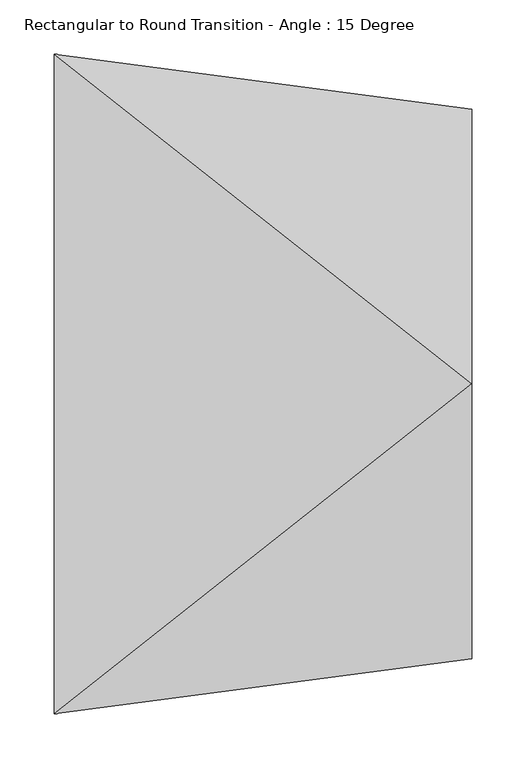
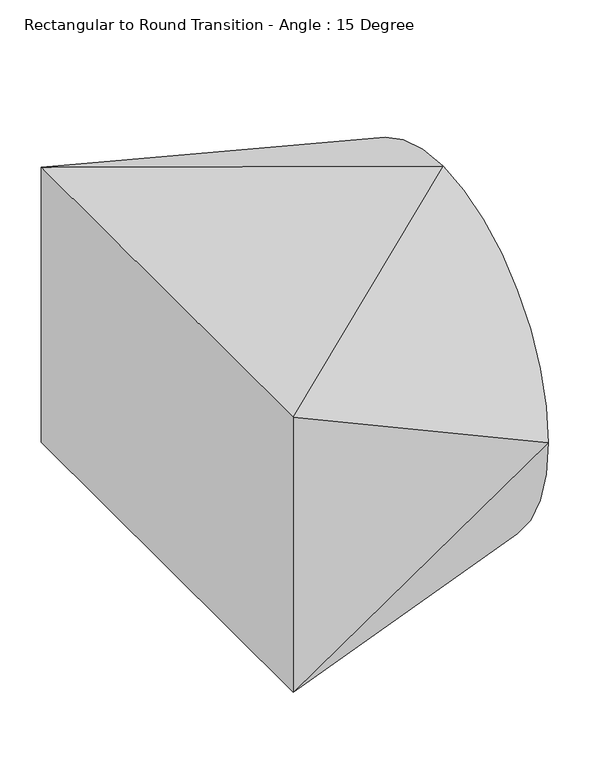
"""IFC4 building model written with IfcOpenShell, lengths in millimetres: duct fitting geometry, Rectangular to Round Transition - Angle : 15 Degree."""

import ifcopenshell
import ifcopenshell.guid

model = None  # the IFC model being written
_history = None  # IfcOwnerHistory: only IFC2X3 demands one
_inside = {}  # id of a spatial element -> (the spatial element, [elements in it])
_under = {}  # id of a project, library or spatial element -> (it, [spatial elements below it])
_declared = {}  # id of a project -> (the project, [libraries it declares])
_typed = {}  # id of a type object -> (the type object, [elements of that type])
_made_of = {}  # id of a material, layer set ... -> (it, [elements and type objects made of it])


def new_model(schema):
    """Start an empty IFC model of exactly this schema.

    Asked for "IFC4X3", IfcOpenShell would pick the latest addendum, in which some entities
    have other attributes; the version numbers below select the first issue.
    IFC2X3 requires an IfcOwnerHistory on every rooted entity: one is made here for all.
    """
    global model, _history
    if schema == "IFC4X3":
        model = ifcopenshell.file(schema_version=(4, 3, 0, 0))
    else:
        model = ifcopenshell.file(schema=schema)
    _inside.clear()
    _under.clear()
    _declared.clear()
    _typed.clear()
    _made_of.clear()
    _history = None
    if model.schema == "IFC2X3":
        org = make("IfcOrganization", Name="unknown")
        user = make(
            "IfcPersonAndOrganization",
            ThePerson=make("IfcPerson", FamilyName="unknown"),
            TheOrganization=org,
        )
        app = make(
            "IfcApplication",
            ApplicationDeveloper=org,
            Version="unknown",
            ApplicationFullName="unknown",
            ApplicationIdentifier="unknown",
        )
        _history = make(
            "IfcOwnerHistory",
            OwningUser=user,
            OwningApplication=app,
            ChangeAction="ADDED",
            CreationDate=0,
        )
    return model


def make(cls, **values):
    """One entity of the class cls with the attributes given. An attribute that is None is left unset."""
    return model.create_entity(
        cls, **{name: value for name, value in values.items() if value is not None}
    )


def rooted(cls, **values):
    """An entity with a GlobalId (a new one), such as an element, a storey or a relation."""
    return make(cls, GlobalId=ifcopenshell.guid.new(), OwnerHistory=_history, **values)


def si_unit(unit_type, name, prefix=None):
    """IfcSIUnit, for example si_unit("LENGTHUNIT", "METRE", prefix="MILLI")."""
    return make("IfcSIUnit", UnitType=unit_type, Prefix=prefix, Name=name)


def assignment(units):
    """IfcUnitAssignment: the units of a project."""
    return None if units is None else make("IfcUnitAssignment", Units=units)


def point(xyz):
    """IfcCartesianPoint."""
    return None if xyz is None else make("IfcCartesianPoint", Coordinates=xyz)


def direction(xyz):
    """IfcDirection."""
    return None if xyz is None else make("IfcDirection", DirectionRatios=xyz)


def frame(location, z_axis=None, x_axis=None):
    """IfcAxis2Placement3D, a coordinate frame: its origin and axes. An axis left out is left unset."""
    return make(
        "IfcAxis2Placement3D",
        Location=point(location),
        Axis=direction(z_axis),
        RefDirection=direction(x_axis),
    )


def origin():
    """The frame at (0, 0, 0) with its axes left unset."""
    return frame((0.0, 0.0, 0.0))


def place(relative_to, where):
    """IfcLocalPlacement: puts the frame where relative to a parent placement (None: the world)."""
    return make(
        "IfcLocalPlacement", PlacementRelTo=relative_to, RelativePlacement=where
    )


def context(
    kind, dimensions, precision=None, world=None, true_north=None, identifier=None
):
    """IfcGeometricRepresentationContext, for example the 3D "Model" context."""
    return make(
        "IfcGeometricRepresentationContext",
        ContextIdentifier=identifier,
        ContextType=kind,
        CoordinateSpaceDimension=dimensions,
        Precision=precision,
        WorldCoordinateSystem=world,
        TrueNorth=true_north,
    )


def project(units=None, contexts=None):
    """IfcProject with its units and contexts."""
    return rooted(
        "IfcProject",
        Name="project",
        RepresentationContexts=contexts,
        UnitsInContext=assignment(units),
    )


def spatial(cls, under=None, at=None, **own):
    """A site, building, storey or space (cls), placed at a placement, below another one or the project."""
    s = rooted(cls, ObjectPlacement=at, **own)
    if under is not None:
        _under.setdefault(under.id(), (under, []))[1].append(s)
    return s


def circle_curve(where, radius):
    """IfcCircle in the frame where."""
    return make("IfcCircle", Position=where, Radius=radius)


def shape(context_of_items, identifier, shape_type, items):
    """IfcShapeRepresentation: the items that make up one representation, for example the "Body"."""
    return make(
        "IfcShapeRepresentation",
        ContextOfItems=context_of_items,
        RepresentationIdentifier=identifier,
        RepresentationType=shape_type,
        Items=items,
    )


def source(mapping_origin, context_of_items, identifier, shape_type, items):
    """IfcRepresentationMap: a shape defined once, which mapped items show again and again."""
    return make(
        "IfcRepresentationMap",
        MappingOrigin=mapping_origin,
        MappedRepresentation=shape(context_of_items, identifier, shape_type, items),
    )


def transform(
    local_origin,
    x_axis=None,
    y_axis=None,
    z_axis=None,
    scale=None,
    scale2=None,
    scale3=None,
    uniform=True,
):
    """IfcCartesianTransformationOperator3D, or its non-uniform kind. x_axis, y_axis, z_axis: its Axis1, 2, 3."""
    if uniform:
        return make(
            "IfcCartesianTransformationOperator3D",
            Axis1=direction(x_axis),
            Axis2=direction(y_axis),
            LocalOrigin=point(local_origin),
            Scale=scale,
            Axis3=direction(z_axis),
        )
    return make(
        "IfcCartesianTransformationOperator3DnonUniform",
        Axis1=direction(x_axis),
        Axis2=direction(y_axis),
        LocalOrigin=point(local_origin),
        Scale=scale,
        Axis3=direction(z_axis),
        Scale2=scale2,
        Scale3=scale3,
    )


def mapped(mapping_source, mapping_target):
    """IfcMappedItem: shows the shape of a source again, moved by a transform."""
    return make(
        "IfcMappedItem", MappingSource=mapping_source, MappingTarget=mapping_target
    )


def made_of(thing, what):
    """Note that an element or type object is made of a material, layer set ...; save() writes the relation."""
    if what is not None:
        _made_of.setdefault(what.id(), (what, []))[1].append(thing)
    return thing


def element(
    cls,
    number,
    at=None,
    inside=None,
    cuts=None,
    type_object=None,
    material=None,
    context=None,
    identifier="Body",
    shape_type=None,
    held_by="IfcProductDefinitionShape",
    body=None,
    shapes=None,
    **own,
):
    """One element of the class cls, such as IfcWall. Its Tag is "e" and its number.

    at: its placement. inside: the storey or other place that contains it. cuts: it is an
    opening in that element (IfcRelVoidsElement). A single representation is given by context,
    identifier, shape_type and body (its items); several are given by shapes. held_by: the class
    of the entity that holds the representations. save() writes the other relations.
    """
    e = rooted(cls, Tag="e%d" % number, ObjectPlacement=at, **own)
    if body is not None:
        shapes = [shape(context, identifier, shape_type, body)]
    if shapes is not None:
        e.Representation = make(held_by, Representations=shapes)
    if inside is not None:
        _inside.setdefault(inside.id(), (inside, []))[1].append(e)
    if cuts is not None:
        rooted(
            "IfcRelVoidsElement", RelatingBuildingElement=cuts, RelatedOpeningElement=e
        )
    if type_object is not None:
        _typed.setdefault(type_object.id(), (type_object, []))[1].append(e)
    return made_of(e, material)


def aggregate(whole, parts):
    """IfcRelAggregates: a whole, such as a stair, and the parts it consists of."""
    return rooted("IfcRelAggregates", RelatingObject=whole, RelatedObjects=parts)


def save(model, path):
    """Write the relations noted so far, then the file.

    IfcRelAggregates (storeys below a building ...), IfcRelContainedInSpatialStructure (elements
    in a storey), IfcRelDefinesByType, IfcRelAssociatesMaterial and IfcRelDeclares: one each for
    every whole, place, type object, material and project.
    """
    for whole, parts in _under.values():
        aggregate(whole, parts)
    for where, things in _inside.values():
        rooted(
            "IfcRelContainedInSpatialStructure",
            RelatedElements=things,
            RelatingStructure=where,
        )
    for kind, things in _typed.values():
        rooted("IfcRelDefinesByType", RelatedObjects=things, RelatingType=kind)
    for what, things in _made_of.values():
        rooted("IfcRelAssociatesMaterial", RelatedObjects=things, RelatingMaterial=what)
    for by, libraries in _declared.values():
        rooted("IfcRelDeclares", RelatingContext=by, RelatedDefinitions=libraries)
    model.write(path)


def plane_surface(at):
    """IfcPlane: the flat surface through the origin of the frame at, square to its z axis."""
    return make("IfcPlane", Position=at)


def spline_surface(u_degree, v_degree, points, u_multiplicities, v_multiplicities, u_knots, v_knots, weights=None):
    """IfcBSplineSurfaceWithKnots; with weights, IfcRationalBSplineSurfaceWithKnots. points: one row for each step in u."""
    own = dict(
        UDegree=u_degree,
        VDegree=v_degree,
        ControlPointsList=[[point(p) for p in row] for row in points],
        SurfaceForm="UNSPECIFIED",
        UClosed=False,
        VClosed=False,
        SelfIntersect=False,
        UMultiplicities=u_multiplicities,
        VMultiplicities=v_multiplicities,
        UKnots=u_knots,
        VKnots=v_knots,
        KnotSpec="UNSPECIFIED",
    )
    if weights is None:
        return make("IfcBSplineSurfaceWithKnots", **own)
    return make("IfcRationalBSplineSurfaceWithKnots", WeightsData=weights, **own)


def advanced_brep(points, edges, surfaces, faces):
    """IfcAdvancedBrep: a solid bounded by faces that lie on surfaces and meet in shared edges.

    An edge is (start, end): straight between two places in points (the first is 0);
    or (start, end, curve); or (start, end, curve, False) where it runs against its curve.
    A face is (place in surfaces, loops), or (place, loops, False) where it looks against
    its surface's normal. A loop lists edges by number (the first is 1), with a minus sign
    where the edge is run from its end to its start. The first loop is the outer one.
    """
    corners = [point(p) for p in points]
    vertices = [make("IfcVertexPoint", VertexGeometry=c) for c in corners]
    made = []
    for start, end, *more in edges:
        made.append(
            make(
                "IfcEdgeCurve",
                EdgeStart=vertices[start],
                EdgeEnd=vertices[end],
                EdgeGeometry=more[0] if more else make("IfcPolyline", Points=[corners[start], corners[end]]),
                SameSense=more[1] if len(more) > 1 else True,
            )
        )
    hull = []
    for where, loops, *sense in faces:
        bounds = []
        for j, loop in enumerate(loops):
            ring = [make("IfcOrientedEdge", EdgeElement=made[abs(k) - 1], Orientation=k > 0) for k in loop]
            bounds.append(
                make(
                    "IfcFaceOuterBound" if j == 0 else "IfcFaceBound",
                    Bound=make("IfcEdgeLoop", EdgeList=ring),
                    Orientation=True,
                )
            )
        hull.append(make("IfcAdvancedFace", Bounds=bounds, FaceSurface=surfaces[where], SameSense=sense[0] if sense else True))
    return make("IfcAdvancedBrep", Outer=make("IfcClosedShell", CfsFaces=hull))


def rectangular_to_round_transition_angle_15_degree_eb7a6f47(model_context):
    return source(origin(), model_context, "Body", "AdvancedBrep", [
        advanced_brep(
        [(385.8643089, 0.0, 254.0), (385.8643089, -254.0, 0.0), (385.8643089, 0.0, -254.0), (385.8643089, 254.0, 0.0), (0.0, -304.8, 203.2), (0.0, 304.8, 203.2), (0.0, 304.8, -203.2), (0.0, -304.8, -203.2)],
        [
            (0, 1, circle_curve(frame((385.8643089, 0.0, 0.0), z_axis=(1.0, 0.0, 0.0), x_axis=(0.0, 1.0, 0.0)), 254.0)),
            (1, 2, circle_curve(frame((385.8643089, 0.0, 0.0), z_axis=(1.0, 0.0, 0.0), x_axis=(0.0, 1.0, 0.0)), 254.0)),
            (2, 3, circle_curve(frame((385.8643089, 0.0, 0.0), z_axis=(1.0, 0.0, 0.0), x_axis=(0.0, 1.0, 0.0)), 254.0)),
            (3, 0, circle_curve(frame((385.8643089, 0.0, 0.0), z_axis=(1.0, 0.0, 0.0), x_axis=(0.0, 1.0, 0.0)), 254.0)),
            (4, 5),
            (5, 6),
            (6, 7),
            (7, 4),
            (0, 4),
            (4, 1),
            (7, 1),
            (7, 2),
            (6, 2),
            (6, 3),
            (5, 3),
            (5, 0),
        ],
        [
            plane_surface(frame((385.8643089, 0.0, 0.0), z_axis=(1.0, 0.0, 0.0), x_axis=(0.0, 0.0, -1.0))),
            plane_surface(frame((0.0, 0.0, 0.0), z_axis=(-1.0, 0.0, 0.0), x_axis=(0.0, 0.0, -1.0))),
            spline_surface(2, 1, [[(0.0, -304.8, 203.2), (385.8643089, 0.0, 254.0)], [(0.0, -304.8, 203.2), (385.8643089, -254.0, 254.0)], [(0.0, -304.8, 203.2), (385.8643089, -254.0, 0.0)]], [3, 3], [2, 2], [0.0, 1.0], [0.0, 1.0], weights=[[1.0, 1.0], [0.7071067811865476, 0.7071067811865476], [1.0, 1.0]]),
            plane_surface(frame((0.0, -304.8, 0.0), z_axis=(0.130526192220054, -0.9914448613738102, 0.0), x_axis=(0.0, 0.0, -1.0))),
            spline_surface(2, 1, [[(0.0, -304.8, -203.2), (385.8643089, -254.0, 0.0)], [(0.0, -304.8, -203.2), (385.8643089, -254.0, -254.0)], [(0.0, -304.8, -203.2), (385.8643089, 0.0, -254.0)]], [3, 3], [2, 2], [0.0, 1.0], [0.0, 1.0], weights=[[1.0, 1.0], [0.7071067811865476, 0.7071067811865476], [1.0, 1.0]]),
            plane_surface(frame((0.0, 0.0, -203.2), z_axis=(-0.13052619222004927, 0.0, -0.9914448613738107), x_axis=(0.0, 1.0, 0.0))),
            spline_surface(2, 1, [[(0.0, 304.8, -203.2), (385.8643089, 0.0, -254.0)], [(0.0, 304.8, -203.2), (385.8643089, 254.0, -254.0)], [(0.0, 304.8, -203.2), (385.8643089, 254.0, 0.0)]], [3, 3], [2, 2], [0.0, 1.0], [0.0, 1.0], weights=[[1.0, 1.0], [0.7071067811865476, 0.7071067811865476], [1.0, 1.0]]),
            plane_surface(frame((0.0, 304.8, 0.0), z_axis=(0.13052619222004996, 0.9914448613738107, 0.0), x_axis=(0.0, 0.0, 1.0))),
            spline_surface(2, 1, [[(0.0, 304.8, 203.2), (385.8643089, 254.0, 0.0)], [(0.0, 304.8, 203.2), (385.8643089, 254.0, 254.0)], [(0.0, 304.8, 203.2), (385.8643089, 0.0, 254.0)]], [3, 3], [2, 2], [0.0, 1.0], [0.0, 1.0], weights=[[1.0, 1.0], [0.7071067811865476, 0.7071067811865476], [1.0, 1.0]]),
            plane_surface(frame((0.0, 0.0, 203.2), z_axis=(-0.13052619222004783, 0.0, 0.9914448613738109), x_axis=(0.0, -1.0, 0.0))),
        ],
        [
            (0, [[1, 2, 3, 4]]),
            (1, [[5, 6, 7, 8]]),
            (2, [[-1, 9, 10]]),
            (3, [[-8, 11, -10]]),
            (4, [[-2, -11, 12]]),
            (5, [[-7, 13, -12]]),
            (6, [[-3, -13, 14]]),
            (7, [[-6, 15, -14]]),
            (8, [[-4, -15, 16]]),
            (9, [[-5, -9, -16]]),
        ],
    ),
    ])


if __name__ == "__main__":
    model = new_model("IFC4")
    model_context = context("Model", 3, world=origin())
    ifc_project = project(units=[si_unit("LENGTHUNIT", "METRE", prefix="MILLI")], contexts=[model_context])
    site = spatial("IfcSite", under=ifc_project)
    building = spatial("IfcBuilding", under=site)
    placement = place(None, origin())
    rectangular_to_round_transition_angle_15_degree_shape = rectangular_to_round_transition_angle_15_degree_eb7a6f47(model_context)
    element("IfcDuctFitting", 1, ObjectType="Rectangular to Round Transition - Angle : 15 Degree", at=placement, inside=building, context=model_context, shape_type="MappedRepresentation", body=[
        mapped(rectangular_to_round_transition_angle_15_degree_shape, transform((0.0, 0.0, 0.0), x_axis=(1.0, 0.0, 0.0), y_axis=(0.0, 1.0, 0.0), z_axis=(0.0, 0.0, 1.0))),
    ])
    save(model, "model.ifc")
